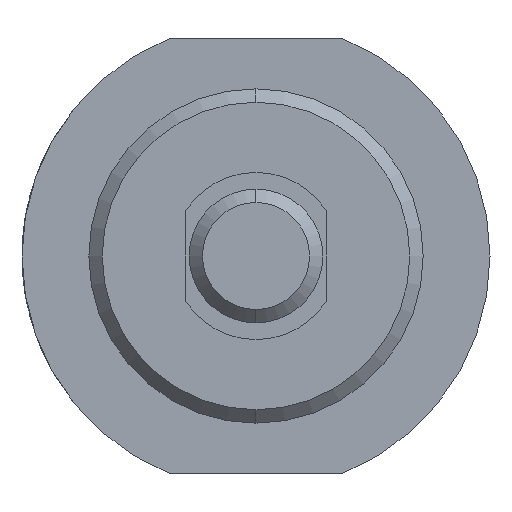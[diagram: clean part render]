
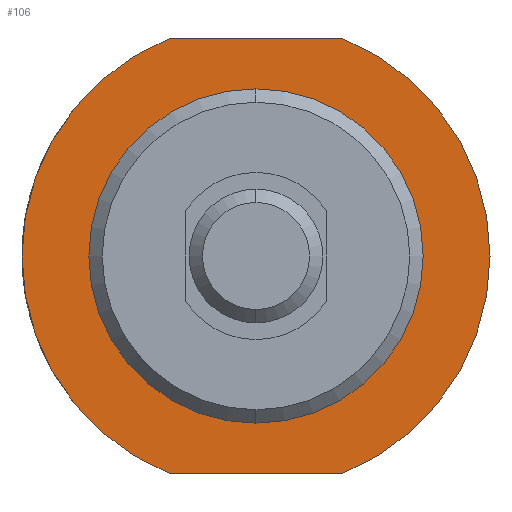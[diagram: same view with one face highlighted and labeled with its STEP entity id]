
A CAD part, left-side view. The second image highlights one B-rep face of the part: STEP entity #106.
In plain terms, the highlighted planar face has unit normal (-1, 0, 0).
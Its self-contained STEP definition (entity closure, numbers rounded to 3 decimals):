
#33 = VERTEX_POINT ( 'NONE', #1448 ) ;
#38 = AXIS2_PLACEMENT_3D ( 'NONE', #882, #319, #72 ) ;
#72 = DIRECTION ( 'NONE',  ( 0., 0., 1. ) ) ;
#83 = DIRECTION ( 'NONE',  ( 0., 0., -1. ) ) ;
#88 = CARTESIAN_POINT ( 'NONE',  ( 28., 2.598, -6.5 ) ) ;
#91 = VERTEX_POINT ( 'NONE', #380 ) ;
#98 = EDGE_LOOP ( 'NONE', ( #889, #402, #648, #397 ) ) ;
#106 = ADVANCED_FACE ( 'NONE', ( #1251, #1041 ), #157, .F. ) ;
#114 = DIRECTION ( 'NONE',  ( -1., 0., 0. ) ) ;
#148 = VERTEX_POINT ( 'NONE', #1112 ) ;
#149 = DIRECTION ( 'NONE',  ( 0., 0., 1. ) ) ;
#157 = PLANE ( 'NONE',  #471 ) ;
#209 = VERTEX_POINT ( 'NONE', #1203 ) ;
#282 = AXIS2_PLACEMENT_3D ( 'NONE', #1528, #114, #1031 ) ;
#293 = LINE ( 'NONE', #88, #828 ) ;
#295 = EDGE_LOOP ( 'NONE', ( #675, #1504 ) ) ;
#319 = DIRECTION ( 'NONE',  ( -1., 0., 0. ) ) ;
#342 = EDGE_CURVE ( 'NONE', #33, #209, #1358, .T. ) ;
#358 = AXIS2_PLACEMENT_3D ( 'NONE', #1059, #904, #1529 ) ;
#369 = EDGE_CURVE ( 'NONE', #649, #841, #293, .T. ) ;
#380 = CARTESIAN_POINT ( 'NONE',  ( 28., 0., -5. ) ) ;
#397 = ORIENTED_EDGE ( 'NONE', *, *, #369, .F. ) ;
#402 = ORIENTED_EDGE ( 'NONE', *, *, #342, .F. ) ;
#404 = CARTESIAN_POINT ( 'NONE',  ( 28., -2.598, -6.5 ) ) ;
#435 = EDGE_CURVE ( 'NONE', #649, #209, #1241, .T. ) ;
#471 = AXIS2_PLACEMENT_3D ( 'NONE', #603, #1510, #83 ) ;
#490 = CARTESIAN_POINT ( 'NONE',  ( 28., 2.598, 6.5 ) ) ;
#498 = CIRCLE ( 'NONE', #358, 5. ) ;
#556 = CIRCLE ( 'NONE', #282, 5. ) ;
#603 = CARTESIAN_POINT ( 'NONE',  ( 28., 5., 0. ) ) ;
#648 = ORIENTED_EDGE ( 'NONE', *, *, #1097, .T. ) ;
#649 = VERTEX_POINT ( 'NONE', #404 ) ;
#656 = CARTESIAN_POINT ( 'NONE',  ( 28., 0., 0. ) ) ;
#675 = ORIENTED_EDGE ( 'NONE', *, *, #1506, .F. ) ;
#723 = VECTOR ( 'NONE', #1385, 1000. ) ;
#828 = VECTOR ( 'NONE', #1004, 1000. ) ;
#841 = VERTEX_POINT ( 'NONE', #1154 ) ;
#882 = CARTESIAN_POINT ( 'NONE',  ( 28., 0., 0. ) ) ;
#889 = ORIENTED_EDGE ( 'NONE', *, *, #435, .T. ) ;
#904 = DIRECTION ( 'NONE',  ( -1., 0., 0. ) ) ;
#1004 = DIRECTION ( 'NONE',  ( 0., 1., 0. ) ) ;
#1031 = DIRECTION ( 'NONE',  ( 0., 0., 1. ) ) ;
#1041 = FACE_OUTER_BOUND ( 'NONE', #98, .T. ) ;
#1059 = CARTESIAN_POINT ( 'NONE',  ( 28., 0., 0. ) ) ;
#1097 = EDGE_CURVE ( 'NONE', #33, #841, #1417, .T. ) ;
#1112 = CARTESIAN_POINT ( 'NONE',  ( 28., 0., 5. ) ) ;
#1154 = CARTESIAN_POINT ( 'NONE',  ( 28., 2.598, -6.5 ) ) ;
#1203 = CARTESIAN_POINT ( 'NONE',  ( 28., -2.598, 6.5 ) ) ;
#1241 = CIRCLE ( 'NONE', #38, 7. ) ;
#1251 = FACE_BOUND ( 'NONE', #295, .T. ) ;
#1289 = AXIS2_PLACEMENT_3D ( 'NONE', #656, #1342, #149 ) ;
#1342 = DIRECTION ( 'NONE',  ( -1., 0., 0. ) ) ;
#1358 = LINE ( 'NONE', #490, #723 ) ;
#1385 = DIRECTION ( 'NONE',  ( 0., -1., 0. ) ) ;
#1417 = CIRCLE ( 'NONE', #1289, 7. ) ;
#1448 = CARTESIAN_POINT ( 'NONE',  ( 28., 2.598, 6.5 ) ) ;
#1504 = ORIENTED_EDGE ( 'NONE', *, *, #1560, .F. ) ;
#1506 = EDGE_CURVE ( 'NONE', #148, #91, #556, .T. ) ;
#1510 = DIRECTION ( 'NONE',  ( 1., 0., 0. ) ) ;
#1528 = CARTESIAN_POINT ( 'NONE',  ( 28., 0., 0. ) ) ;
#1529 = DIRECTION ( 'NONE',  ( 0., 0., 1. ) ) ;
#1560 = EDGE_CURVE ( 'NONE', #91, #148, #498, .T. ) ;
